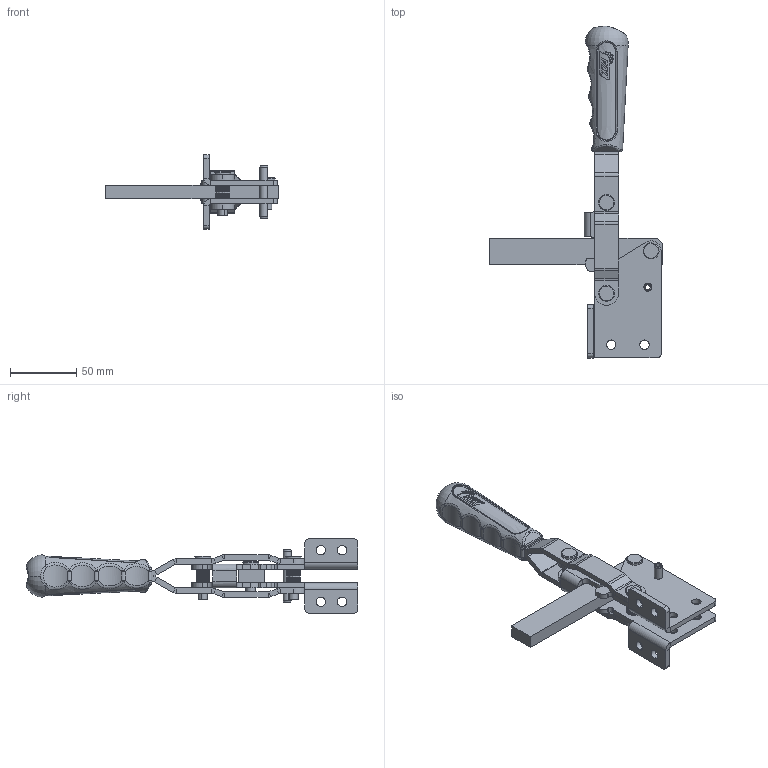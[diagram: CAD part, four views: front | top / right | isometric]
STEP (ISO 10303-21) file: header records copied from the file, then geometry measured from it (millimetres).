
FILE_DESCRIPTION (( 'STEP AP214' ), '1' );
FILE_NAME ('203_Y.STEP', '2024-09-09T16:29:01', ( '' ), ( '' ), 'SwSTEP 2.0', 'SolidWorks 2023', '' );
FILE_SCHEMA (( 'AUTOMOTIVE_DESIGN' ));
Length unit declared in the file: millimetre
Products named in the file (12): FZK_203_Y_02_00; FZK_203_B_03_00; Ø6x40 YARIKLI PİM; FZK_203_B_05_00; 203_Y; FZK_203_B_02_00; FZK_203_B_07_00; FZK_203_B_06_00; FZK_203_B_04_00; TTMK_03_00; FZK_203_B_03A_00; FZK_203_Y_01_00
Assembly tree (15 placements, depth 3):
  203_Y
    FZK_203_B_02_00
    FZK_203_B_03_00
      FZK_203_B_03A_00  x2
    TTMK_03_00
    FZK_203_B_07_00  x2
    FZK_203_B_05_00
    FZK_203_B_06_00  x2
    FZK_203_Y_02_00
    FZK_203_B_04_00  x2
    Ø6x40 YARIKLI PİM
    FZK_203_Y_01_00
Bounding box: 130 x 249.71 x 56.01 mm (x, y, z)
Volume: 147416.7 mm3; surface area: 73559.9 mm2
Topology: 14 solids, 14 shells, 1226 faces, 3332 edges, 2137 vertices
Faces by surface type: cylinder 778, bspline 213, plane 166, cone 43, sphere 20, torus 6
Entity records: 42833 total; most frequent: CARTESIAN_POINT 24579, ORIENTED_EDGE 4416, DIRECTION 2622, EDGE_CURVE 2208, VERTEX_POINT 1419, B_SPLINE_CURVE_WITH_KNOTS 1192, AXIS2_PLACEMENT_3D 987, EDGE_LOOP 889
